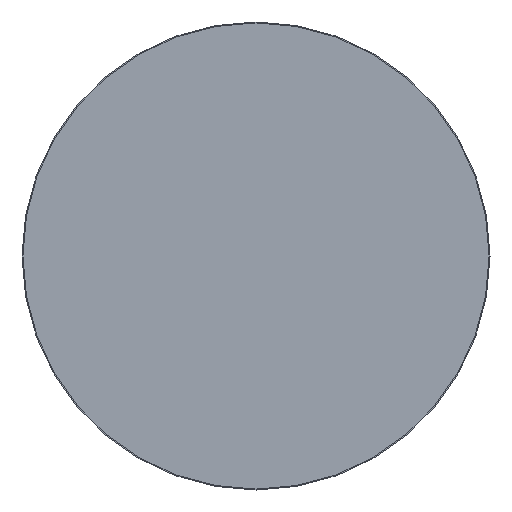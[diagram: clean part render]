
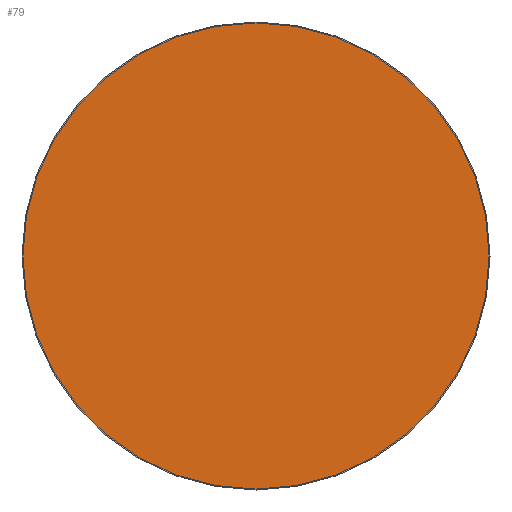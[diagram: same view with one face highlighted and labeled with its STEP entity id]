
A CAD part, front view. The second image highlights one B-rep face of the part: STEP entity #79.
In plain terms, the highlighted planar face has unit normal (0, -1, 0).
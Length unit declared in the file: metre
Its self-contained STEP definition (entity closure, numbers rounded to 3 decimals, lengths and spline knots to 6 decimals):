
#79 = ADVANCED_FACE( '', ( #92 ), #93, .T. );
#92 = FACE_OUTER_BOUND( '', #114, .T. );
#93 = PLANE( '', #115 );
#114 = EDGE_LOOP( '', ( #140 ) );
#115 = AXIS2_PLACEMENT_3D( '', #141, #142, #143 );
#140 = ORIENTED_EDGE( '', *, *, #171, .T. );
#141 = CARTESIAN_POINT( '', ( 0., 0., 0. ) );
#142 = DIRECTION( '', ( 0., -1., 0. ) );
#143 = DIRECTION( '', ( 0., 0., -1. ) );
#171 = EDGE_CURVE( '', #180, #180, #181, .T. );
#180 = VERTEX_POINT( '', #194 );
#181 = CIRCLE( '', #195, 0.0249 );
#194 = CARTESIAN_POINT( '', ( 0., 0., -0.0249 ) );
#195 = AXIS2_PLACEMENT_3D( '', #210, #211, #212 );
#210 = CARTESIAN_POINT( '', ( 0., 0., 0. ) );
#211 = DIRECTION( '', ( 0., -1., 0. ) );
#212 = DIRECTION( '', ( 0., 0., -1. ) );
